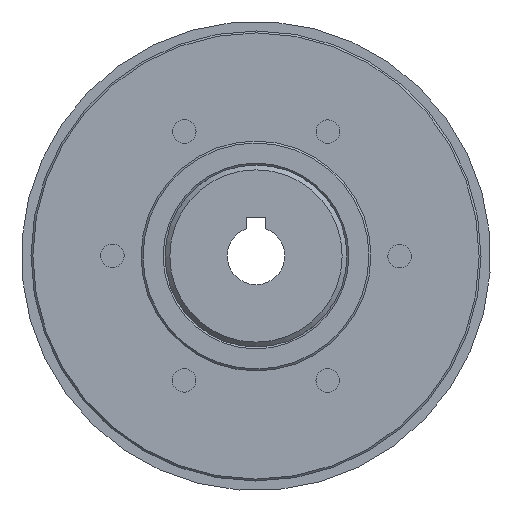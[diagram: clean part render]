
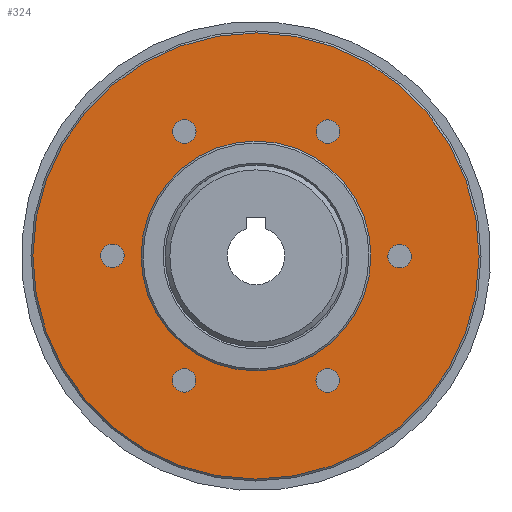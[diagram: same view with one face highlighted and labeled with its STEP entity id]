
A CAD part, left-side view. The second image highlights one B-rep face of the part: STEP entity #324.
In plain terms, the highlighted planar face has unit normal (-1, 0, 0).
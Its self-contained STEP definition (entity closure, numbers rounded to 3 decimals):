
#324 = ADVANCED_FACE( '', ( #636, #637, #638, #639, #640, #641, #642, #643 ), #644, .T. );
#636 = FACE_BOUND( '', #936, .T. );
#637 = FACE_BOUND( '', #937, .T. );
#638 = FACE_BOUND( '', #938, .T. );
#639 = FACE_BOUND( '', #939, .T. );
#640 = FACE_BOUND( '', #940, .T. );
#641 = FACE_BOUND( '', #941, .T. );
#642 = FACE_OUTER_BOUND( '', #942, .T. );
#643 = FACE_BOUND( '', #943, .T. );
#644 = PLANE( '', #944 );
#936 = EDGE_LOOP( '', ( #1348 ) );
#937 = EDGE_LOOP( '', ( #1349 ) );
#938 = EDGE_LOOP( '', ( #1350 ) );
#939 = EDGE_LOOP( '', ( #1351 ) );
#940 = EDGE_LOOP( '', ( #1352 ) );
#941 = EDGE_LOOP( '', ( #1353 ) );
#942 = EDGE_LOOP( '', ( #1354 ) );
#943 = EDGE_LOOP( '', ( #1355 ) );
#944 = AXIS2_PLACEMENT_3D( '', #1356, #1357, #1358 );
#1348 = ORIENTED_EDGE( '', *, *, #1540, .T. );
#1349 = ORIENTED_EDGE( '', *, *, #1498, .T. );
#1350 = ORIENTED_EDGE( '', *, *, #1430, .T. );
#1351 = ORIENTED_EDGE( '', *, *, #1409, .T. );
#1352 = ORIENTED_EDGE( '', *, *, #1507, .T. );
#1353 = ORIENTED_EDGE( '', *, *, #1538, .T. );
#1354 = ORIENTED_EDGE( '', *, *, #1533, .T. );
#1355 = ORIENTED_EDGE( '', *, *, #1518, .F. );
#1356 = CARTESIAN_POINT( '', ( 5.5, 0., 12. ) );
#1357 = DIRECTION( '', ( -1., 0., 0. ) );
#1358 = DIRECTION( '', ( 0., 0., 1. ) );
#1409 = EDGE_CURVE( '', #1559, #1559, #1560, .T. );
#1430 = EDGE_CURVE( '', #1593, #1593, #1594, .T. );
#1498 = EDGE_CURVE( '', #1698, #1698, #1699, .T. );
#1507 = EDGE_CURVE( '', #1712, #1712, #1713, .T. );
#1518 = EDGE_CURVE( '', #1726, #1726, #1727, .T. );
#1533 = EDGE_CURVE( '', #1746, #1746, #1747, .T. );
#1538 = EDGE_CURVE( '', #1752, #1752, #1753, .T. );
#1540 = EDGE_CURVE( '', #1755, #1755, #1756, .T. );
#1559 = VERTEX_POINT( '', #1779 );
#1560 = CIRCLE( '', #1780, 1.23 );
#1593 = VERTEX_POINT( '', #1817 );
#1594 = CIRCLE( '', #1818, 1.23 );
#1698 = VERTEX_POINT( '', #2059 );
#1699 = CIRCLE( '', #2060, 1.23 );
#1712 = VERTEX_POINT( '', #2073 );
#1713 = CIRCLE( '', #2074, 1.23 );
#1726 = VERTEX_POINT( '', #2089 );
#1727 = CIRCLE( '', #2090, 12. );
#1746 = VERTEX_POINT( '', #2109 );
#1747 = CIRCLE( '', #2110, 23.3 );
#1752 = VERTEX_POINT( '', #2115 );
#1753 = CIRCLE( '', #2116, 1.23 );
#1755 = VERTEX_POINT( '', #2118 );
#1756 = CIRCLE( '', #2119, 1.23 );
#1779 = CARTESIAN_POINT( '', ( 5.5, -14.055, -8.115 ) );
#1780 = AXIS2_PLACEMENT_3D( '', #2133, #2134, #2135 );
#1817 = CARTESIAN_POINT( '', ( 5.5, 0., -16.23 ) );
#1818 = AXIS2_PLACEMENT_3D( '', #2170, #2171, #2172 );
#2059 = CARTESIAN_POINT( '', ( 5.5, 14.055, -8.115 ) );
#2060 = AXIS2_PLACEMENT_3D( '', #2268, #2269, #2270 );
#2073 = CARTESIAN_POINT( '', ( 5.5, -14.055, 8.115 ) );
#2074 = AXIS2_PLACEMENT_3D( '', #2283, #2284, #2285 );
#2089 = CARTESIAN_POINT( '', ( 5.5, 0., 12. ) );
#2090 = AXIS2_PLACEMENT_3D( '', #2294, #2295, #2296 );
#2109 = CARTESIAN_POINT( '', ( 5.5, 0., 23.3 ) );
#2110 = AXIS2_PLACEMENT_3D( '', #2312, #2313, #2314 );
#2115 = CARTESIAN_POINT( '', ( 5.5, 0., 16.23 ) );
#2116 = AXIS2_PLACEMENT_3D( '', #2315, #2316, #2317 );
#2118 = CARTESIAN_POINT( '', ( 5.5, 14.055, 8.115 ) );
#2119 = AXIS2_PLACEMENT_3D( '', #2318, #2319, #2320 );
#2133 = CARTESIAN_POINT( '', ( 5.5, -12.99, -7.5 ) );
#2134 = DIRECTION( '', ( 1., 0., 0. ) );
#2135 = DIRECTION( '', ( 0., -0.866, -0.5 ) );
#2170 = CARTESIAN_POINT( '', ( 5.5, 0., -15. ) );
#2171 = DIRECTION( '', ( 1., 0., 0. ) );
#2172 = DIRECTION( '', ( 0., 0., -1. ) );
#2268 = CARTESIAN_POINT( '', ( 5.5, 12.99, -7.5 ) );
#2269 = DIRECTION( '', ( 1., 0., 0. ) );
#2270 = DIRECTION( '', ( 0., 0.866, -0.5 ) );
#2283 = CARTESIAN_POINT( '', ( 5.5, -12.99, 7.5 ) );
#2284 = DIRECTION( '', ( 1., 0., 0. ) );
#2285 = DIRECTION( '', ( 0., -0.866, 0.5 ) );
#2294 = CARTESIAN_POINT( '', ( 5.5, 0., 0. ) );
#2295 = DIRECTION( '', ( -1., 0., 0. ) );
#2296 = DIRECTION( '', ( 0., 0., 1. ) );
#2312 = CARTESIAN_POINT( '', ( 5.5, 0., 0. ) );
#2313 = DIRECTION( '', ( -1., 0., 0. ) );
#2314 = DIRECTION( '', ( 0., 0., 1. ) );
#2315 = CARTESIAN_POINT( '', ( 5.5, 0., 15. ) );
#2316 = DIRECTION( '', ( 1., 0., 0. ) );
#2317 = DIRECTION( '', ( 0., 0., 1. ) );
#2318 = CARTESIAN_POINT( '', ( 5.5, 12.99, 7.5 ) );
#2319 = DIRECTION( '', ( 1., 0., 0. ) );
#2320 = DIRECTION( '', ( 0., 0.866, 0.5 ) );
